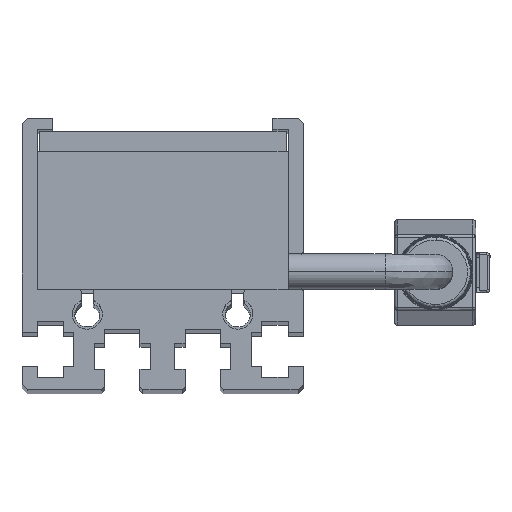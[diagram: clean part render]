
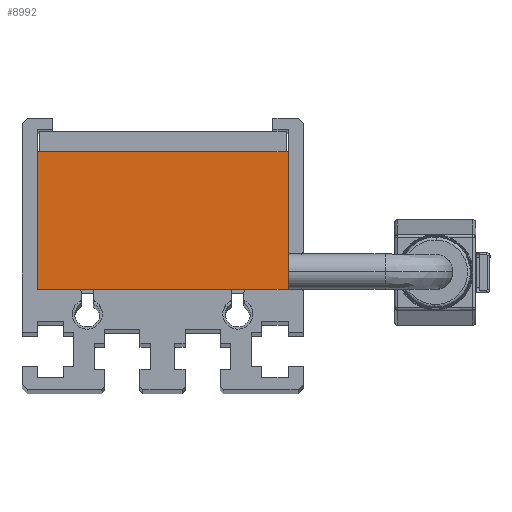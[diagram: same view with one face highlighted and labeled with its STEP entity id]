
A CAD part, top view. The second image highlights one B-rep face of the part: STEP entity #8992.
In plain terms, the highlighted planar face has unit normal (0, 0, 1).
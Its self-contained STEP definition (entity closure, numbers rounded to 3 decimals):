
#13 = LINE ( 'NONE', #7544, #6614 ) ;
#395 = FACE_OUTER_BOUND ( 'NONE', #5116, .T. ) ;
#1210 = ORIENTED_EDGE ( 'NONE', *, *, #11397, .F. ) ;
#1232 = EDGE_CURVE ( 'NONE', #3229, #7673, #14633, .T. ) ;
#2172 = ORIENTED_EDGE ( 'NONE', *, *, #1232, .T. ) ;
#3229 = VERTEX_POINT ( 'NONE', #6704 ) ;
#3378 = LINE ( 'NONE', #7173, #7803 ) ;
#4894 = DIRECTION ( 'NONE',  ( 0., 0., -1. ) ) ;
#5116 = EDGE_LOOP ( 'NONE', ( #2172, #1210, #8734, #14133 ) ) ;
#5908 = CARTESIAN_POINT ( 'NONE',  ( -12.5, 13.7, 118.5 ) ) ;
#6614 = VECTOR ( 'NONE', #12600, 1000. ) ;
#6704 = CARTESIAN_POINT ( 'NONE',  ( -12.5, 13.7, 118.5 ) ) ;
#7173 = CARTESIAN_POINT ( 'NONE',  ( 12.5, 0., 118.5 ) ) ;
#7367 = VECTOR ( 'NONE', #10920, 1000. ) ;
#7512 = VERTEX_POINT ( 'NONE', #10969 ) ;
#7544 = CARTESIAN_POINT ( 'NONE',  ( 12.5, 13.7, 118.5 ) ) ;
#7673 = VERTEX_POINT ( 'NONE', #16633 ) ;
#7803 = VECTOR ( 'NONE', #14941, 1000. ) ;
#8283 = CARTESIAN_POINT ( 'NONE',  ( 12.5, 13.7, 118.5 ) ) ;
#8698 = EDGE_CURVE ( 'NONE', #11210, #7512, #11066, .T. ) ;
#8734 = ORIENTED_EDGE ( 'NONE', *, *, #8698, .F. ) ;
#8992 = ADVANCED_FACE ( 'NONE', ( #395 ), #12536, .F. ) ;
#9171 = DIRECTION ( 'NONE',  ( 0., -1., 0. ) ) ;
#9933 = AXIS2_PLACEMENT_3D ( 'NONE', #10010, #4894, #13040 ) ;
#9977 = EDGE_CURVE ( 'NONE', #11210, #3229, #13, .T. ) ;
#10010 = CARTESIAN_POINT ( 'NONE',  ( 12.5, 13.7, 118.5 ) ) ;
#10633 = CARTESIAN_POINT ( 'NONE',  ( 12.5, 13.7, 118.5 ) ) ;
#10920 = DIRECTION ( 'NONE',  ( 0., -1., 0. ) ) ;
#10969 = CARTESIAN_POINT ( 'NONE',  ( 12.5, 0., 118.5 ) ) ;
#11066 = LINE ( 'NONE', #10633, #13475 ) ;
#11210 = VERTEX_POINT ( 'NONE', #8283 ) ;
#11397 = EDGE_CURVE ( 'NONE', #7512, #7673, #3378, .T. ) ;
#12536 = PLANE ( 'NONE',  #9933 ) ;
#12600 = DIRECTION ( 'NONE',  ( -1., 0., 0. ) ) ;
#13040 = DIRECTION ( 'NONE',  ( -1., 0., 0. ) ) ;
#13475 = VECTOR ( 'NONE', #9171, 1000. ) ;
#14133 = ORIENTED_EDGE ( 'NONE', *, *, #9977, .T. ) ;
#14633 = LINE ( 'NONE', #5908, #7367 ) ;
#14941 = DIRECTION ( 'NONE',  ( -1., 0., 0. ) ) ;
#16633 = CARTESIAN_POINT ( 'NONE',  ( -12.5, 0., 118.5 ) ) ;
